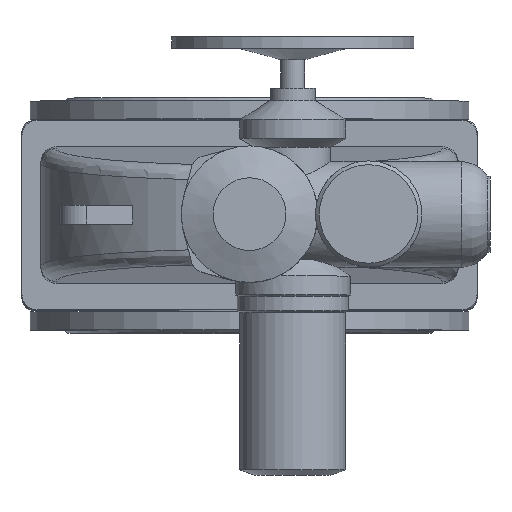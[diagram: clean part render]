
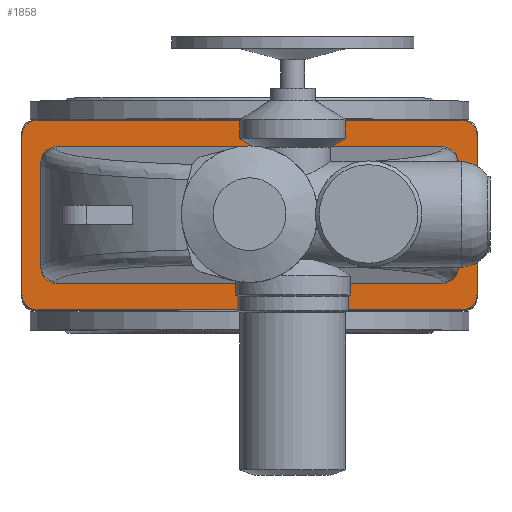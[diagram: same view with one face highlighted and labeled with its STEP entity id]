
A CAD part, top view. The second image highlights one B-rep face of the part: STEP entity #1858.
In plain terms, the highlighted planar face has unit normal (0, 0, 1).
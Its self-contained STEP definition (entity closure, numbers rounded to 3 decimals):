
#1858=ADVANCED_FACE('',(#6219,#6221),#6223,.T.);
#6219=FACE_BOUND('',#6220,.T.);
#6220=EDGE_LOOP('',(#8788,#8789,#8790,#8791,#8792,#8793,#8794,#8795));
#6221=FACE_BOUND('',#6222,.T.);
#6222=EDGE_LOOP('',(#8796,#8797,#8798,#8799,#8800,#8801,#8802,#8803));
#6223=PLANE('',#6224);
#6224=AXIS2_PLACEMENT_3D('',#6225,#6226,#6227);
#6225=CARTESIAN_POINT('',(0.,0.,466.));
#6226=DIRECTION('',(0.,-0.,1.));
#6227=DIRECTION('',(0.,1.,0.));
#8788=ORIENTED_EDGE('',*,*,#9790,.F.);
#8789=ORIENTED_EDGE('',*,*,#9803,.T.);
#8790=ORIENTED_EDGE('',*,*,#9802,.F.);
#8791=ORIENTED_EDGE('',*,*,#9800,.T.);
#8792=ORIENTED_EDGE('',*,*,#9798,.F.);
#8793=ORIENTED_EDGE('',*,*,#9796,.T.);
#8794=ORIENTED_EDGE('',*,*,#9794,.F.);
#8795=ORIENTED_EDGE('',*,*,#9791,.T.);
#8796=ORIENTED_EDGE('',*,*,#9804,.F.);
#8797=ORIENTED_EDGE('',*,*,#9805,.F.);
#8798=ORIENTED_EDGE('',*,*,#9806,.F.);
#8799=ORIENTED_EDGE('',*,*,#9807,.F.);
#8800=ORIENTED_EDGE('',*,*,#9808,.F.);
#8801=ORIENTED_EDGE('',*,*,#9809,.F.);
#8802=ORIENTED_EDGE('',*,*,#9810,.F.);
#8803=ORIENTED_EDGE('',*,*,#9811,.F.);
#9790=EDGE_CURVE('',#10855,#10853,#10857,.F.);
#9791=EDGE_CURVE('',#10858,#10853,#10859,.T.);
#9794=EDGE_CURVE('',#10858,#10861,#10863,.F.);
#9796=EDGE_CURVE('',#10864,#10861,#10866,.T.);
#9798=EDGE_CURVE('',#10864,#10867,#10869,.F.);
#9800=EDGE_CURVE('',#10870,#10867,#10872,.T.);
#9802=EDGE_CURVE('',#10870,#10873,#10875,.F.);
#9803=EDGE_CURVE('',#10855,#10873,#10876,.T.);
#9804=EDGE_CURVE('',#10877,#10878,#10879,.F.);
#9805=EDGE_CURVE('',#10880,#10877,#10881,.T.);
#9806=EDGE_CURVE('',#10882,#10880,#10883,.T.);
#9807=EDGE_CURVE('',#10884,#10882,#10885,.T.);
#9808=EDGE_CURVE('',#10886,#10884,#10887,.F.);
#9809=EDGE_CURVE('',#10888,#10886,#10889,.T.);
#9810=EDGE_CURVE('',#10890,#10888,#10891,.T.);
#9811=EDGE_CURVE('',#10878,#10890,#10892,.T.);
#10853=VERTEX_POINT('',#14073);
#10855=VERTEX_POINT('',#14077);
#10857=CIRCLE('',#14081,20.);
#10858=VERTEX_POINT('',#14085);
#10859=LINE('',#14086,#14087);
#10861=VERTEX_POINT('',#14092);
#10863=CIRCLE('',#14096,20.);
#10864=VERTEX_POINT('',#14100);
#10866=LINE('',#14104,#14105);
#10867=VERTEX_POINT('',#14107);
#10869=CIRCLE('',#14111,20.);
#10870=VERTEX_POINT('',#14115);
#10872=LINE('',#14119,#14120);
#10873=VERTEX_POINT('',#14122);
#10875=CIRCLE('',#14126,20.);
#10876=LINE('',#14130,#14131);
#10877=VERTEX_POINT('',#14133);
#10878=VERTEX_POINT('',#14134);
#10879=(BOUNDED_CURVE()B_SPLINE_CURVE(3,
(#14135,#14136,#14137,#14138),
.UNSPECIFIED.,.F.,.F.)B_SPLINE_CURVE_WITH_KNOTS((4,4),
(0.,1.),
.UNSPECIFIED.)CURVE()GEOMETRIC_REPRESENTATION_ITEM()RATIONAL_B_SPLINE_CURVE((1.,
0.805,0.805,1.))REPRESENTATION_ITEM(''));
#10880=VERTEX_POINT('',#14139);
#10881=LINE('',#14140,#14141);
#10882=VERTEX_POINT('',#14143);
#10883=(BOUNDED_CURVE()B_SPLINE_CURVE(3,
(#14144,#14145,#14146,#14147),
.UNSPECIFIED.,.F.,.F.)B_SPLINE_CURVE_WITH_KNOTS((4,4),
(0.,1.),
.UNSPECIFIED.)CURVE()GEOMETRIC_REPRESENTATION_ITEM()RATIONAL_B_SPLINE_CURVE((1.,
0.805,0.805,1.))REPRESENTATION_ITEM(''));
#10884=VERTEX_POINT('',#14148);
#10885=LINE('',#14149,#14150);
#10886=VERTEX_POINT('',#14152);
#10887=(BOUNDED_CURVE()B_SPLINE_CURVE(3,
(#14153,#14154,#14155,#14156),
.UNSPECIFIED.,.F.,.F.)B_SPLINE_CURVE_WITH_KNOTS((4,4),
(0.,1.),
.UNSPECIFIED.)CURVE()GEOMETRIC_REPRESENTATION_ITEM()RATIONAL_B_SPLINE_CURVE((1.,
0.805,0.805,1.))REPRESENTATION_ITEM(''));
#10888=VERTEX_POINT('',#14157);
#10889=LINE('',#14158,#14159);
#10890=VERTEX_POINT('',#14161);
#10891=(BOUNDED_CURVE()B_SPLINE_CURVE(3,
(#14162,#14163,#14164,#14165),
.UNSPECIFIED.,.F.,.F.)B_SPLINE_CURVE_WITH_KNOTS((4,4),
(0.,1.),
.UNSPECIFIED.)CURVE()GEOMETRIC_REPRESENTATION_ITEM()RATIONAL_B_SPLINE_CURVE((1.,
0.805,0.805,1.))REPRESENTATION_ITEM(''));
#10892=LINE('',#14166,#14167);
#14073=CARTESIAN_POINT('',(-300.,-105.,466.));
#14077=CARTESIAN_POINT('',(-280.,-125.,466.));
#14081=AXIS2_PLACEMENT_3D('',#14082,#14083,#14084);
#14082=CARTESIAN_POINT('',(-280.,-105.,466.));
#14083=DIRECTION('',(0.,-0.,1.));
#14084=DIRECTION('',(-1.,0.,0.));
#14085=CARTESIAN_POINT('',(-300.,105.,466.));
#14086=CARTESIAN_POINT('',(-300.,105.,466.));
#14087=VECTOR('',#14088,1.);
#14088=DIRECTION('',(0.,-1.,0.));
#14092=CARTESIAN_POINT('',(-280.,125.,466.));
#14096=AXIS2_PLACEMENT_3D('',#14097,#14098,#14099);
#14097=CARTESIAN_POINT('',(-280.,105.,466.));
#14098=DIRECTION('',(0.,-0.,1.));
#14099=DIRECTION('',(0.,1.,0.));
#14100=CARTESIAN_POINT('',(280.,125.,466.));
#14104=CARTESIAN_POINT('',(280.,125.,466.));
#14105=VECTOR('',#14106,1.);
#14106=DIRECTION('',(-1.,0.,0.));
#14107=CARTESIAN_POINT('',(300.,105.,466.));
#14111=AXIS2_PLACEMENT_3D('',#14112,#14113,#14114);
#14112=CARTESIAN_POINT('',(280.,105.,466.));
#14113=DIRECTION('',(0.,-0.,1.));
#14114=DIRECTION('',(1.,0.,0.));
#14115=CARTESIAN_POINT('',(300.,-105.,466.));
#14119=CARTESIAN_POINT('',(300.,-105.,466.));
#14120=VECTOR('',#14121,1.);
#14121=DIRECTION('',(0.,1.,0.));
#14122=CARTESIAN_POINT('',(280.,-125.,466.));
#14126=AXIS2_PLACEMENT_3D('',#14127,#14128,#14129);
#14127=CARTESIAN_POINT('',(280.,-105.,466.));
#14128=DIRECTION('',(0.,-0.,1.));
#14129=DIRECTION('',(0.,-1.,0.));
#14130=CARTESIAN_POINT('',(-280.,-125.,466.));
#14131=VECTOR('',#14132,1.);
#14132=DIRECTION('',(1.,0.,0.));
#14133=CARTESIAN_POINT('',(255.,-90.,466.));
#14134=CARTESIAN_POINT('',(275.,-69.924,466.));
#14135=CARTESIAN_POINT('',(275.,-69.924,466.));
#14136=CARTESIAN_POINT('',(275.,-81.684,466.));
#14137=CARTESIAN_POINT('',(266.716,-90.,466.));
#14138=CARTESIAN_POINT('',(255.,-90.,466.));
#14139=CARTESIAN_POINT('',(-255.,-90.,466.));
#14140=CARTESIAN_POINT('',(-255.,-90.,466.));
#14141=VECTOR('',#14142,1.);
#14142=DIRECTION('',(1.,0.,0.));
#14143=CARTESIAN_POINT('',(-275.,-69.924,466.));
#14144=CARTESIAN_POINT('',(-275.,-69.924,466.));
#14145=CARTESIAN_POINT('',(-275.,-81.684,466.));
#14146=CARTESIAN_POINT('',(-266.716,-90.,466.));
#14147=CARTESIAN_POINT('',(-255.,-90.,466.));
#14148=CARTESIAN_POINT('',(-275.,69.924,466.));
#14149=CARTESIAN_POINT('',(-275.,69.924,466.));
#14150=VECTOR('',#14151,1.);
#14151=DIRECTION('',(0.,-1.,0.));
#14152=CARTESIAN_POINT('',(-255.,90.,466.));
#14153=CARTESIAN_POINT('',(-275.,69.924,466.));
#14154=CARTESIAN_POINT('',(-275.,81.684,466.));
#14155=CARTESIAN_POINT('',(-266.716,90.,466.));
#14156=CARTESIAN_POINT('',(-255.,90.,466.));
#14157=CARTESIAN_POINT('',(255.,90.,466.));
#14158=CARTESIAN_POINT('',(255.,90.,466.));
#14159=VECTOR('',#14160,1.);
#14160=DIRECTION('',(-1.,0.,0.));
#14161=CARTESIAN_POINT('',(275.,69.924,466.));
#14162=CARTESIAN_POINT('',(275.,69.924,466.));
#14163=CARTESIAN_POINT('',(275.,81.684,466.));
#14164=CARTESIAN_POINT('',(266.716,90.,466.));
#14165=CARTESIAN_POINT('',(255.,90.,466.));
#14166=CARTESIAN_POINT('',(275.,-69.924,466.));
#14167=VECTOR('',#14168,1.);
#14168=DIRECTION('',(0.,1.,0.));
